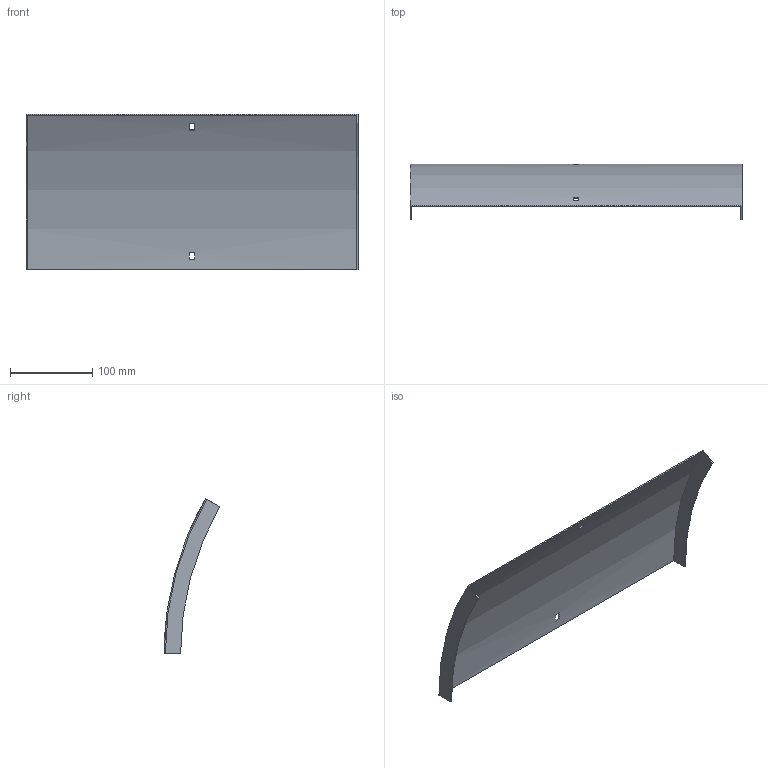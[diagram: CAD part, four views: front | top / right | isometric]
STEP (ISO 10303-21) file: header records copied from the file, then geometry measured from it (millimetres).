
FILE_DESCRIPTION (( 'STEP AP214' ), '1' );
FILE_NAME ('B2_35N3C400.step', '2025-02-21T10:31:53', ( '' ), ( '' ), 'SwSTEP 2.0', 'SolidWorks 2023', '' );
FILE_SCHEMA (( 'AUTOMOTIVE_DESIGN' ));
Length unit declared in the file: millimetre
Products named in the file (1): B2_35N3C400
Bounding box: 403 x 67.76 x 188.25 mm (x, y, z)
Volume: 129383.6 mm3; surface area: 174485.7 mm2
Topology: 1 solids, 1 shells, 18 faces, 48 edges, 32 vertices
Faces by surface type: plane 14, cylinder 4
Entity records: 599 total; most frequent: DIRECTION 102, CARTESIAN_POINT 99, ORIENTED_EDGE 96, EDGE_CURVE 48, AXIS2_PLACEMENT_3D 35, VECTOR 32, VERTEX_POINT 32, LINE 32
